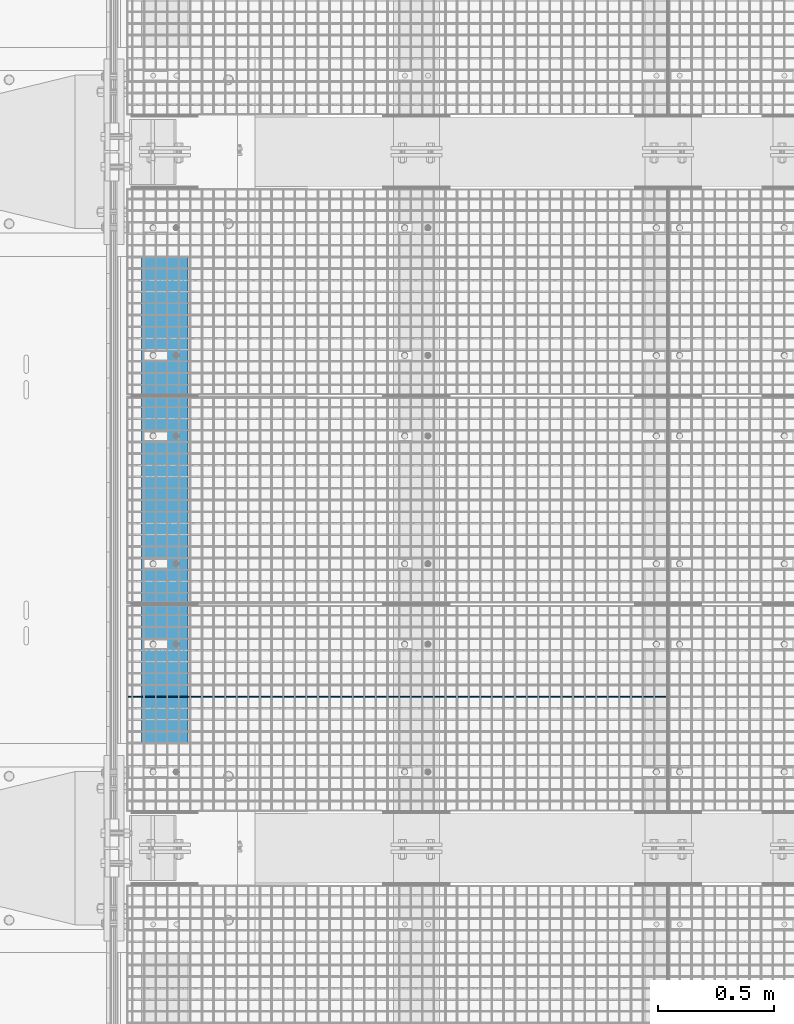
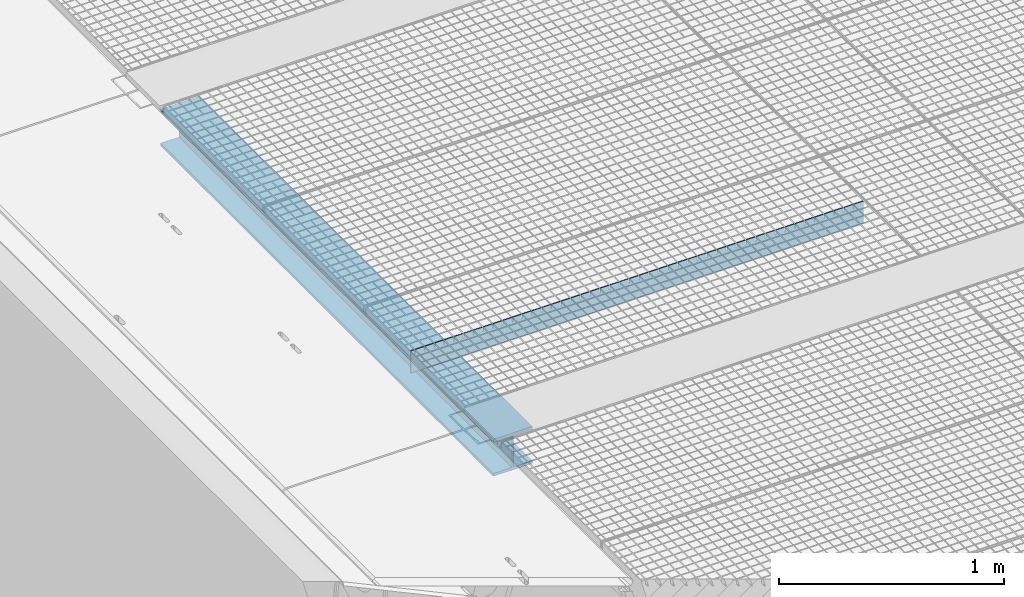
# One storey, part 257 of 1530: 2 beams.
"""IFC2X3 building model written with IfcOpenShell, lengths in millimetres."""

from ifc_helpers import new_model, si_unit, frame, origin_with_axes, place, context, subcontext, project, spatial, faceted_brep, material, type_object, element, save


model = new_model("IFC2X3")

# Units and contexts
model_context = context("Model", 3, precision=1e-05, world=origin_with_axes())
body_context = subcontext(model_context, "Body", "Model", "MODEL_VIEW")
ifc_project = project(units=[si_unit("LENGTHUNIT", "METRE", prefix="MILLI"), si_unit("AREAUNIT", "SQUARE_METRE"), si_unit("VOLUMEUNIT", "CUBIC_METRE"), si_unit("MASSUNIT", "GRAM", prefix="KILO"), si_unit("TIMEUNIT", "SECOND"), si_unit("PLANEANGLEUNIT", "RADIAN"), si_unit("SOLIDANGLEUNIT", "STERADIAN"), si_unit("THERMODYNAMICTEMPERATUREUNIT", "DEGREE_CELSIUS"), si_unit("LUMINOUSINTENSITYUNIT", "LUMEN")], contexts=[model_context])

# Site, building, storey
site_placement = place(None, origin_with_axes())
site = spatial("IfcSite", under=ifc_project, at=site_placement, Name="Brattvåg", CompositionType="ELEMENT")
building_placement = place(site_placement, origin_with_axes())
building = spatial("IfcBuilding", under=site, at=building_placement, Name="Undefined", CompositionType="ELEMENT")
storey_placement = place(building_placement, origin_with_axes())
storey = spatial("IfcBuildingStorey", under=building, at=storey_placement, Name="Undefined", CompositionType="ELEMENT", Elevation=0.0)

# Beams
ifc_material_1 = material(Name="STEEL/S355J2")
beam_type_1 = type_object("IfcBeamType", Name="120*5", PredefinedType="NOTDEFINED")
beam_1_placement = place(storey_placement, frame((2347.01317977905, 3652.99563598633, -59.9998626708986), z_axis=(0.0, 0.0, 1.0), x_axis=(-1.0, 1.99999855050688e-09, 0.0)))
element("IfcBeam", 1, at=beam_1_placement, inside=storey, type_object=beam_type_1, material=ifc_material_1, Name="GRATING", context=body_context, shape_type="Brep", body=[
    faceted_brep([(99.4490367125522, -2.50000000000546, 60.0000722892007), (99.4490367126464, -2.50000000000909, 35.0001373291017), (99.4490367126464, 2.50022888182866, 35.0001373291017), (99.4490367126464, 2.5, 60.0), (104.449036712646, -2.50000000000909, 35.0001373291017), (104.449036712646, 2.50022888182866, 35.0001373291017), (104.449036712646, -2.50000000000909, 60.0001373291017), (104.449036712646, 2.5, 60.0), (54.5084370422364, -2.50000000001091, 60.0001373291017), (54.5084370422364, 2.5, 60.0), (54.5084370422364, 2.49999999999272, 35.0001373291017), (54.5084370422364, -2.50000000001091, 35.0001373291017), (49.5084370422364, 2.49999999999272, 35.0001373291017), (49.5084370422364, -2.50000000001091, 35.0001373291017), (49.5084370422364, -2.5, 60.0), (49.5084370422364, 2.5, 60.0), (0.0, 2.5, 60.0), (0.0, -2.5, 60.0), (0.0, -2.5, -60.0), (0.0, 2.5, -60.0), (2319.99865722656, 2.5, -60.0), (2319.99865722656, -2.5, -60.0), (2319.99865722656, -2.5, 60.0), (2319.99865722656, 2.5, 60.0), (2302.24871932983, 2.5, 60.0), (2302.24871932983, -2.50000000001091, 60.0001373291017), (2302.24871932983, 2.49999999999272, 35.0001373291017), (2302.24871932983, -2.50000000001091, 35.0001373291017), (2297.24871932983, 2.49999999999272, 35.0001373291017), (2297.24871932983, -2.50000000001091, 35.0001373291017), (2297.24871932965, -2.50000000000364, 60.0000461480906), (2297.24871932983, 2.5, 60.0), (2252.29859649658, 2.5, 60.0), (2252.29859649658, -2.50000000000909, 60.0001373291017), (2252.29859649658, 2.50022888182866, 35.0001373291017), (2252.29859649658, -2.50000000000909, 35.0001373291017), (2247.29859649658, 2.50022888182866, 35.0001373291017), (2247.29859649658, -2.50000000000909, 35.0001373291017), (2247.29859649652, -2.50000000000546, 60.0000848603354), (2247.29859649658, 2.5, 60.0), (2202.34847366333, 2.5, 60.0), (2202.34847366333, -2.50000000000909, 60.0001373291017), (2202.34847366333, 2.50022888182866, 35.0001373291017), (2202.34847366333, -2.50000000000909, 35.0001373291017), (2197.34847366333, 2.50022888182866, 35.0001373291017), (2197.34847366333, -2.50000000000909, 35.0001373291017), (2197.34847366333, -2.5, 60.0), (2197.34847366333, 2.5, 60.0), (2152.39882766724, 2.5, 60.0), (2152.39882766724, -2.50000000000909, 60.0001373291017), (2152.39882766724, 2.50022888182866, 35.0001373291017), (2152.39882766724, -2.50000000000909, 35.0001373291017), (2147.39882766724, 2.50022888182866, 35.0001373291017), (2147.39882766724, -2.50000000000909, 35.0001373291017), (2147.39882766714, -2.50000000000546, 60.0000722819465), (2147.39882766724, 2.5, 60.0), (2102.44870483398, 2.5, 60.0), (2102.44870483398, -2.50000000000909, 60.0001373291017), (2102.44870483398, 2.50022888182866, 35.0001373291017), (2102.44870483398, -2.50000000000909, 35.0001373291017), (2097.44870483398, 2.50022888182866, 35.0001373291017), (2097.44870483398, -2.50000000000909, 35.0001373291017), (2097.44870483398, -2.5, 60.0), (2097.44870483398, 2.5, 60.0), (2052.49858200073, 2.5, 60.0), (2052.49858200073, -2.50000000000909, 60.0001373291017), (2052.49858200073, 2.50022888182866, 35.0001373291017), (2052.49858200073, -2.50000000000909, 35.0001373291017), (2047.49858200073, 2.50022888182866, 35.0001373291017), (2047.49858200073, -2.50000000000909, 35.0001373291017), (2047.49858200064, -2.50000000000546, 60.0000722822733), (2047.49858200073, 2.5, 60.0), (2002.54845916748, 2.5, 60.0), (2002.54845916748, -2.50000000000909, 60.0001373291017), (2002.54845916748, 2.50022888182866, 35.0001373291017), (2002.54845916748, -2.50000000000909, 35.0001373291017), (1997.54845916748, 2.50022888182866, 35.0001373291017), (1997.54845916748, -2.50000000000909, 35.0001373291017), (1997.54845916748, -2.5, 60.0), (1997.54845916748, 2.5, 60.0), (1952.59881317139, 2.5, 60.0), (1952.59881317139, -2.50000000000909, 60.0001373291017), (1952.59881317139, 2.50022888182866, 35.0001373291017), (1952.59881317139, -2.50000000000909, 35.0001373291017), (1947.59881317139, 2.50022888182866, 35.0001373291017), (1947.59881317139, -2.50000000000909, 35.0001373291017), (1947.59881317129, -2.50000000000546, 60.0000722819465), (1947.59881317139, 2.5, 60.0), (1902.64869033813, 2.5, 60.0), (1902.64869033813, -2.50000000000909, 60.0001373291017), (1902.64869033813, 2.50022888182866, 35.0001373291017), (1902.64869033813, -2.50000000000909, 35.0001373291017), (1897.64869033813, 2.50022888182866, 35.0001373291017), (1897.64869033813, -2.50000000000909, 35.0001373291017), (1897.64869033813, -2.5, 60.0), (1897.64869033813, 2.5, 60.0), (1852.69856750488, 2.5, 60.0), (1852.69856750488, -2.50000000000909, 60.0001373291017), (1852.69856750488, 2.50022888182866, 35.0001373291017), (1852.69856750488, -2.50000000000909, 35.0001373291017), (1847.69856750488, 2.50022888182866, 35.0001373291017), (1847.69856750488, -2.50000000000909, 35.0001373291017), (1847.69856750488, -2.5, 60.0), (1847.69856750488, 2.5, 60.0), (1802.74892150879, 2.5, 60.0), (1802.74892150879, -2.50000000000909, 60.0001373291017), (1802.74892150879, 2.50022888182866, 35.0001373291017), (1802.74892150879, -2.50000000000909, 35.0001373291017), (1797.74892150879, 2.50022888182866, 35.0001373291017), (1797.74892150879, -2.50000000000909, 35.0001373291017), (1797.74892150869, -2.50000000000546, 60.0000722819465), (1797.74892150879, 2.5, 60.0), (1752.79879867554, 2.5, 60.0), (1752.79879867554, -2.50000000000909, 60.0001373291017), (1752.79879867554, 2.50022888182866, 35.0001373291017), (1752.79879867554, -2.50000000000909, 35.0001373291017), (1747.79879867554, 2.50022888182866, 35.0001373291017), (1747.79879867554, -2.50000000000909, 35.0001373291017), (1747.79879867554, -2.5, 60.0), (1747.79879867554, 2.5, 60.0), (1702.84867584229, 2.5, 60.0), (1702.84867584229, -2.50000000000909, 60.0001373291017), (1702.84867584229, 2.50022888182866, 35.0001373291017), (1702.84867584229, -2.50000000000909, 35.0001373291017), (1697.84867584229, 2.50022888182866, 35.0001373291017), (1697.84867584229, -2.50000000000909, 35.0001373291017), (1697.84867584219, -2.50000000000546, 60.0000722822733), (1697.84867584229, 2.5, 60.0), (1652.89855300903, 2.5, 60.0), (1652.89855300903, -2.50000000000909, 60.0001373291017), (1652.89855300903, 2.50022888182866, 35.0001373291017), (1652.89855300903, -2.50000000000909, 35.0001373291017), (1647.89855300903, 2.50022888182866, 35.0001373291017), (1647.89855300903, -2.50000000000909, 35.0001373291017), (1647.89855300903, -2.5, 60.0), (1647.89855300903, 2.5, 60.0), (1602.94890701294, 2.5, 60.0), (1602.94890701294, -2.50000000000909, 60.0001373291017), (1602.94890701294, 2.50022888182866, 35.0001373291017), (1602.94890701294, -2.50000000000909, 35.0001373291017), (1597.94890701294, 2.50022888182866, 35.0001373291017), (1597.94890701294, -2.50000000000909, 35.0001373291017), (1597.94890701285, -2.50000000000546, 60.0000722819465), (1597.94890701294, 2.5, 60.0), (1552.99878417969, 2.5, 60.0), (1552.99878417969, -2.50000000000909, 60.0001373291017), (1552.99878417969, 2.50022888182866, 35.0001373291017), (1552.99878417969, -2.50000000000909, 35.0001373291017), (1547.99878417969, 2.50022888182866, 35.0001373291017), (1547.99878417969, -2.50000000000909, 35.0001373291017), (1547.99878417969, -2.5, 60.0), (1547.99878417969, 2.5, 60.0), (1503.04866134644, 2.5, 60.0), (1503.04866134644, -2.50000000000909, 60.0001373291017), (1503.04866134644, 2.50022888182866, 35.0001373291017), (1503.04866134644, -2.50000000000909, 35.0001373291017), (1498.04866134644, 2.50022888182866, 35.0001373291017), (1498.04866134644, -2.50000000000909, 35.0001373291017), (1498.04866134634, -2.50000000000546, 60.0000722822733), (1498.04866134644, 2.5, 60.0), (1453.09853851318, 2.5, 60.0), (1453.09853851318, -2.50000000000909, 60.0001373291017), (1453.09853851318, 2.50022888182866, 35.0001373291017), (1453.09853851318, -2.50000000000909, 35.0001373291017), (1448.09853851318, 2.50022888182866, 35.0001373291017), (1448.09853851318, -2.50000000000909, 35.0001373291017), (1448.09853851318, -2.5, 60.0), (1448.09853851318, 2.5, 60.0), (1403.14889251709, 2.5, 60.0), (1403.14889251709, -2.50000000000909, 60.0001373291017), (1403.14889251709, 2.50022888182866, 35.0001373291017), (1403.14889251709, -2.50000000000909, 35.0001373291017), (1398.14889251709, 2.50022888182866, 35.0001373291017), (1398.14889251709, -2.50000000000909, 35.0001373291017), (1398.148892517, -2.50000000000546, 60.0000722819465), (1398.14889251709, 2.5, 60.0), (1353.19876968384, 2.5, 60.0), (1353.19876968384, -2.50000000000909, 60.0001373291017), (1353.19876968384, 2.50022888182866, 35.0001373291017), (1353.19876968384, -2.50000000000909, 35.0001373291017), (1348.19876968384, 2.50022888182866, 35.0001373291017), (1348.19876968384, -2.50000000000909, 35.0001373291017), (1348.19876968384, -2.5, 60.0), (1348.19876968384, 2.5, 60.0), (1303.24864685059, 2.5, 60.0), (1303.24864685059, -2.50000000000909, 60.0001373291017), (1303.24864685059, 2.50022888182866, 35.0001373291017), (1303.24864685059, -2.50000000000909, 35.0001373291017), (1298.24864685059, 2.50022888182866, 35.0001373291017), (1298.24864685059, -2.50000000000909, 35.0001373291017), (1298.24864685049, -2.50000000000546, 60.0000722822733), (1298.24864685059, 2.5, 60.0), (1253.29852401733, 2.5, 60.0), (1253.29852401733, -2.50000000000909, 60.0001373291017), (1253.29852401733, 2.50022888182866, 35.0001373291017), (1253.29852401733, -2.50000000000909, 35.0001373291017), (1248.29852401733, 2.50022888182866, 35.0001373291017), (1248.29852401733, -2.50000000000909, 35.0001373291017), (1248.29852401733, -2.5, 60.0), (1248.29852401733, 2.5, 60.0), (1203.34887802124, 2.5, 60.0), (1203.34887802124, -2.50000000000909, 60.0001373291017), (1203.34887802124, 2.50022888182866, 35.0001373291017), (1203.34887802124, -2.50000000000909, 35.0001373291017), (1198.34887802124, 2.50022888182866, 35.0001373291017), (1198.34887802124, -2.50000000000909, 35.0001373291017), (1198.34887802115, -2.50000000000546, 60.0000722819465), (1198.34887802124, 2.5, 60.0), (1153.39875518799, 2.5, 60.0), (1153.39875518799, -2.50000000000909, 60.0001373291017), (1153.39875518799, 2.50022888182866, 35.0001373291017), (1153.39875518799, -2.50000000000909, 35.0001373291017), (1148.39875518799, 2.50022888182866, 35.0001373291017), (1148.39875518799, -2.50000000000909, 35.0001373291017), (1148.39875518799, -2.5, 60.0), (1148.39875518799, 2.5, 60.0), (1103.44863235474, 2.5, 60.0), (1103.44863235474, -2.50000000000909, 60.0001373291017), (1103.44863235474, 2.50022888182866, 35.0001373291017), (1103.44863235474, -2.50000000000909, 35.0001373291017), (1098.44863235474, 2.50022888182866, 35.0001373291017), (1098.44863235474, -2.50000000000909, 35.0001373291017), (1098.44863235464, -2.50000000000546, 60.0000722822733), (1098.44863235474, 2.5, 60.0), (1053.49850952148, 2.5, 60.0), (1053.49850952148, -2.50000000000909, 60.0001373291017), (1053.49850952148, 2.50022888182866, 35.0001373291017), (1053.49850952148, -2.50000000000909, 35.0001373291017), (1048.49850952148, 2.50022888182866, 35.0001373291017), (1048.49850952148, -2.50000000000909, 35.0001373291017), (1048.49850952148, -2.5, 60.0), (1048.49850952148, 2.5, 60.0), (1003.54886352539, 2.5, 60.0), (1003.54886352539, -2.50000000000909, 60.0001373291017), (1003.54886352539, 2.50022888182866, 35.0001373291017), (1003.54886352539, -2.50000000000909, 35.0001373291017), (998.548863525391, 2.50022888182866, 35.0001373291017), (998.548863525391, -2.50000000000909, 35.0001373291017), (998.548863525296, -2.50000000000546, 60.0000722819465), (998.548863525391, 2.5, 60.0), (953.598740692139, 2.5, 60.0), (953.598740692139, -2.50000000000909, 60.0001373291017), (953.598740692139, 2.50022888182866, 35.0001373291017), (953.598740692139, -2.50000000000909, 35.0001373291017), (948.598740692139, 2.50022888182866, 35.0001373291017), (948.598740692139, -2.50000000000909, 35.0001373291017), (948.598740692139, -2.5, 60.0), (948.598740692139, 2.5, 60.0), (903.648617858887, 2.5, 60.0), (903.648617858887, -2.50000000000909, 60.0001373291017), (903.648617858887, 2.50022888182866, 35.0001373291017), (903.648617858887, -2.50000000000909, 35.0001373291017), (898.648617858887, 2.50022888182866, 35.0001373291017), (898.648617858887, -2.50000000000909, 35.0001373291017), (898.648617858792, -2.50000000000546, 60.0000722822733), (898.648617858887, 2.5, 60.0), (853.698495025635, 2.5, 60.0), (853.698495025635, -2.50000000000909, 60.0001373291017), (853.698495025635, 2.50022888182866, 35.0001373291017), (853.698495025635, -2.50000000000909, 35.0001373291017), (848.698495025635, 2.50022888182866, 35.0001373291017), (848.698495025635, -2.50000000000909, 35.0001373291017), (848.698495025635, -2.5, 60.0), (848.698495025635, 2.5, 60.0), (803.748849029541, 2.5, 60.0), (803.748849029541, -2.50000000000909, 60.0001373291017), (803.748849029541, 2.50022888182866, 35.0001373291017), (803.748849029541, -2.50000000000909, 35.0001373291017), (798.748849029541, 2.50022888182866, 35.0001373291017), (798.748849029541, -2.50000000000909, 35.0001373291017), (798.748849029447, -2.50000000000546, 60.0000722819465), (798.748849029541, 2.5, 60.0), (753.798726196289, 2.5, 60.0), (753.798726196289, -2.50000000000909, 60.0001373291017), (753.798726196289, 2.50022888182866, 35.0001373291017), (753.798726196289, -2.50000000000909, 35.0001373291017), (748.798726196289, 2.50022888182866, 35.0001373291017), (748.798726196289, -2.50000000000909, 35.0001373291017), (748.798726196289, -2.5, 60.0), (748.798726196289, 2.5, 60.0), (703.848603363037, 2.5, 60.0), (703.848603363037, -2.50000000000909, 60.0001373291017), (703.848603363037, 2.50022888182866, 35.0001373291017), (703.848603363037, -2.50000000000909, 35.0001373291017), (698.848603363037, 2.50022888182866, 35.0001373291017), (698.848603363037, -2.50000000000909, 35.0001373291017), (698.848603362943, -2.50000000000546, 60.0000722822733), (698.848603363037, 2.5, 60.0), (653.898480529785, 2.5, 60.0), (653.898480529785, -2.50000000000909, 60.0001373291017), (653.898480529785, 2.50022888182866, 35.0001373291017), (653.898480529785, -2.50000000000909, 35.0001373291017), (648.898480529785, 2.50022888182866, 35.0001373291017), (648.898480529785, -2.50000000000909, 35.0001373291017), (648.898480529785, -2.5, 60.0), (648.898480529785, 2.5, 60.0), (603.948834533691, 2.5, 60.0), (603.948834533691, -2.50000000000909, 60.0001373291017), (603.948834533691, 2.50022888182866, 35.0001373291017), (603.948834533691, -2.50000000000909, 35.0001373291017), (598.948834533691, 2.50022888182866, 35.0001373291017), (598.948834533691, -2.50000000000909, 35.0001373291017), (598.948834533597, -2.50000000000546, 60.0000722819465), (598.948834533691, 2.5, 60.0), (553.998711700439, 2.5, 60.0), (553.998711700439, -2.50000000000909, 60.0001373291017), (553.998711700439, 2.50022888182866, 35.0001373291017), (553.998711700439, -2.50000000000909, 35.0001373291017), (548.998711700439, 2.50022888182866, 35.0001373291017), (548.998711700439, -2.50000000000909, 35.0001373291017), (548.998711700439, -2.5, 60.0), (548.998711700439, 2.5, 60.0), (504.048588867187, 2.5, 60.0), (504.048588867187, -2.50000000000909, 60.0001373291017), (504.048588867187, 2.50022888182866, 35.0001373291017), (504.048588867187, -2.50000000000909, 35.0001373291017), (499.048588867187, 2.50022888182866, 35.0001373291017), (499.048588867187, -2.50000000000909, 35.0001373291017), (499.048588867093, -2.50000000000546, 60.0000722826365), (499.048588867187, 2.5, 60.0), (454.098942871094, 2.5, 60.0), (454.098942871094, -2.50000000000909, 60.0001373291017), (454.098942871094, 2.50022888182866, 35.0001373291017), (454.098942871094, -2.50000000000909, 35.0001373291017), (449.098942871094, 2.50022888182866, 35.0001373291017), (449.098942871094, -2.50000000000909, 35.0001373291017), (449.098942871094, -2.5, 60.0), (449.098942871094, 2.5, 60.0), (404.148820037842, 2.5, 60.0), (404.148820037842, -2.50000000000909, 60.0001373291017), (404.148820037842, 2.50022888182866, 35.0001373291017), (404.148820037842, -2.50000000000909, 35.0001373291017), (399.148820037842, 2.50022888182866, 35.0001373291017), (399.148820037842, -2.50000000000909, 35.0001373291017), (399.148820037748, -2.50000000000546, 60.0000722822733), (399.148820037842, 2.5, 60.0), (354.19869720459, 2.5, 60.0), (354.19869720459, -2.50000000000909, 60.0001373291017), (354.19869720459, 2.50022888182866, 35.0001373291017), (354.19869720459, -2.50000000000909, 35.0001373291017), (349.19869720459, 2.50022888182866, 35.0001373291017), (349.19869720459, -2.50000000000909, 35.0001373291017), (349.19869720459, -2.5, 60.0), (349.19869720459, 2.5, 60.0), (304.248574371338, 2.5, 60.0), (304.248574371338, -2.50000000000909, 60.0001373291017), (304.248574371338, 2.50022888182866, 35.0001373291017), (304.248574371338, -2.50000000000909, 35.0001373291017), (299.248574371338, 2.50022888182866, 35.0001373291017), (299.248574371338, -2.50000000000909, 35.0001373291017), (299.248574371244, -2.50000000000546, 60.0000722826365), (299.248574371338, 2.5, 60.0), (254.298928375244, 2.5, 60.0), (254.298928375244, -2.50000000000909, 60.0001373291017), (254.298928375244, 2.50022888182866, 35.0001373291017), (254.298928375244, -2.50000000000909, 35.0001373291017), (249.298928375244, 2.50022888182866, 35.0001373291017), (249.298928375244, -2.50000000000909, 35.0001373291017), (249.298928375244, -2.5, 60.0), (249.298928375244, 2.5, 60.0), (204.348328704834, 2.5, 60.0), (204.348328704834, -2.50000000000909, 60.0001373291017), (204.348328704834, 2.50022888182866, 35.0001373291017), (204.348328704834, -2.50000000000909, 35.0001373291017), (199.348328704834, 2.50022888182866, 35.0001373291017), (199.348328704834, -2.50000000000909, 35.0001373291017), (199.34832870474, -2.50000000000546, 60.0000722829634), (199.348328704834, 2.5, 60.0), (154.39868270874, 2.5, 60.0), (154.39868270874, -2.50000000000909, 60.0001373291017), (154.39868270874, 2.50022888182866, 35.0001373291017), (154.39868270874, -2.50000000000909, 35.0001373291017), (149.39868270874, 2.50022888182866, 35.0001373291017), (149.39868270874, -2.50000000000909, 35.0001373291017), (149.39868270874, -2.5, 60.0), (149.39868270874, 2.5, 60.0)], [[[0, 1, 2, 3]], [[4, 5, 2, 1]], [[6, 7, 5, 4]], [[8, 9, 10, 11]], [[11, 10, 12, 13]], [[14, 13, 12, 15]], [[16, 17, 14, 15]], [[18, 17, 16, 19]], [[18, 19, 20, 21]], [[22, 21, 20, 23]], [[22, 23, 24, 25]], [[25, 24, 26, 27]], [[27, 26, 28, 29]], [[30, 29, 28, 31]], [[32, 33, 30, 31]], [[33, 32, 34, 35]], [[35, 34, 36, 37]], [[38, 37, 36, 39]], [[40, 41, 38, 39]], [[41, 40, 42, 43]], [[43, 42, 44, 45]], [[46, 45, 44, 47]], [[46, 47, 48, 49]], [[49, 48, 50, 51]], [[51, 50, 52, 53]], [[54, 53, 52, 55]], [[56, 57, 54, 55]], [[57, 56, 58, 59]], [[59, 58, 60, 61]], [[62, 61, 60, 63]], [[62, 63, 64, 65]], [[65, 64, 66, 67]], [[67, 66, 68, 69]], [[70, 69, 68, 71]], [[72, 73, 70, 71]], [[73, 72, 74, 75]], [[75, 74, 76, 77]], [[78, 77, 76, 79]], [[78, 79, 80, 81]], [[81, 80, 82, 83]], [[83, 82, 84, 85]], [[86, 85, 84, 87]], [[88, 89, 86, 87]], [[89, 88, 90, 91]], [[91, 90, 92, 93]], [[94, 93, 92, 95]], [[94, 95, 96, 97]], [[97, 96, 98, 99]], [[99, 98, 100, 101]], [[102, 101, 100, 103]], [[102, 103, 104, 105]], [[105, 104, 106, 107]], [[107, 106, 108, 109]], [[110, 109, 108, 111]], [[112, 113, 110, 111]], [[113, 112, 114, 115]], [[115, 114, 116, 117]], [[118, 117, 116, 119]], [[118, 119, 120, 121]], [[121, 120, 122, 123]], [[123, 122, 124, 125]], [[126, 125, 124, 127]], [[128, 129, 126, 127]], [[129, 128, 130, 131]], [[131, 130, 132, 133]], [[134, 133, 132, 135]], [[134, 135, 136, 137]], [[137, 136, 138, 139]], [[139, 138, 140, 141]], [[142, 141, 140, 143]], [[144, 145, 142, 143]], [[145, 144, 146, 147]], [[147, 146, 148, 149]], [[150, 149, 148, 151]], [[150, 151, 152, 153]], [[153, 152, 154, 155]], [[155, 154, 156, 157]], [[158, 157, 156, 159]], [[160, 161, 158, 159]], [[161, 160, 162, 163]], [[163, 162, 164, 165]], [[166, 165, 164, 167]], [[166, 167, 168, 169]], [[169, 168, 170, 171]], [[171, 170, 172, 173]], [[174, 173, 172, 175]], [[176, 177, 174, 175]], [[177, 176, 178, 179]], [[179, 178, 180, 181]], [[182, 181, 180, 183]], [[182, 183, 184, 185]], [[185, 184, 186, 187]], [[187, 186, 188, 189]], [[190, 189, 188, 191]], [[192, 193, 190, 191]], [[193, 192, 194, 195]], [[195, 194, 196, 197]], [[198, 197, 196, 199]], [[198, 199, 200, 201]], [[201, 200, 202, 203]], [[203, 202, 204, 205]], [[206, 205, 204, 207]], [[208, 209, 206, 207]], [[209, 208, 210, 211]], [[211, 210, 212, 213]], [[214, 213, 212, 215]], [[214, 215, 216, 217]], [[217, 216, 218, 219]], [[219, 218, 220, 221]], [[222, 221, 220, 223]], [[224, 225, 222, 223]], [[225, 224, 226, 227]], [[227, 226, 228, 229]], [[230, 229, 228, 231]], [[230, 231, 232, 233]], [[233, 232, 234, 235]], [[235, 234, 236, 237]], [[238, 237, 236, 239]], [[240, 241, 238, 239]], [[241, 240, 242, 243]], [[243, 242, 244, 245]], [[246, 245, 244, 247]], [[246, 247, 248, 249]], [[249, 248, 250, 251]], [[251, 250, 252, 253]], [[254, 253, 252, 255]], [[256, 257, 254, 255]], [[257, 256, 258, 259]], [[259, 258, 260, 261]], [[262, 261, 260, 263]], [[262, 263, 264, 265]], [[265, 264, 266, 267]], [[267, 266, 268, 269]], [[270, 269, 268, 271]], [[272, 273, 270, 271]], [[273, 272, 274, 275]], [[275, 274, 276, 277]], [[278, 277, 276, 279]], [[278, 279, 280, 281]], [[281, 280, 282, 283]], [[283, 282, 284, 285]], [[286, 285, 284, 287]], [[288, 289, 286, 287]], [[289, 288, 290, 291]], [[291, 290, 292, 293]], [[294, 293, 292, 295]], [[294, 295, 296, 297]], [[297, 296, 298, 299]], [[299, 298, 300, 301]], [[302, 301, 300, 303]], [[304, 305, 302, 303]], [[305, 304, 306, 307]], [[307, 306, 308, 309]], [[310, 309, 308, 311]], [[310, 311, 312, 313]], [[313, 312, 314, 315]], [[315, 314, 316, 317]], [[318, 317, 316, 319]], [[320, 321, 318, 319]], [[321, 320, 322, 323]], [[323, 322, 324, 325]], [[326, 325, 324, 327]], [[326, 327, 328, 329]], [[329, 328, 330, 331]], [[331, 330, 332, 333]], [[334, 333, 332, 335]], [[336, 337, 334, 335]], [[337, 336, 338, 339]], [[339, 338, 340, 341]], [[342, 341, 340, 343]], [[342, 343, 344, 345]], [[345, 344, 346, 347]], [[347, 346, 348, 349]], [[350, 349, 348, 351]], [[352, 353, 350, 351]], [[353, 352, 354, 355]], [[355, 354, 356, 357]], [[358, 357, 356, 359]], [[358, 359, 360, 361]], [[361, 360, 362, 363]], [[363, 362, 364, 365]], [[366, 365, 364, 367]], [[368, 369, 366, 367]], [[369, 368, 370, 371]], [[371, 370, 372, 373]], [[374, 373, 372, 375]], [[1, 0, 8, 11, 13, 14, 17, 18, 21, 22, 25, 27, 29, 30, 33, 35, 37, 38, 41, 43, 45, 46, 49, 51, 53, 54, 57, 59, 61, 62, 65, 67, 69, 70, 73, 75, 77, 78, 81, 83, 85, 86, 89, 91, 93, 94, 97, 99, 101, 102, 105, 107, 109, 110, 113, 115, 117, 118, 121, 123, 125, 126, 129, 131, 133, 134, 137, 139, 141, 142, 145, 147, 149, 150, 153, 155, 157, 158, 161, 163, 165, 166, 169, 171, 173, 174, 177, 179, 181, 182, 185, 187, 189, 190, 193, 195, 197, 198, 201, 203, 205, 206, 209, 211, 213, 214, 217, 219, 221, 222, 225, 227, 229, 230, 233, 235, 237, 238, 241, 243, 245, 246, 249, 251, 253, 254, 257, 259, 261, 262, 265, 267, 269, 270, 273, 275, 277, 278, 281, 283, 285, 286, 289, 291, 293, 294, 297, 299, 301, 302, 305, 307, 309, 310, 313, 315, 317, 318, 321, 323, 325, 326, 329, 331, 333, 334, 337, 339, 341, 342, 345, 347, 349, 350, 353, 355, 357, 358, 361, 363, 365, 366, 369, 371, 373, 374, 6, 4]], [[9, 8, 0, 3]], [[375, 372, 370, 368, 367, 364, 362, 360, 359, 356, 354, 352, 351, 348, 346, 344, 343, 340, 338, 336, 335, 332, 330, 328, 327, 324, 322, 320, 319, 316, 314, 312, 311, 308, 306, 304, 303, 300, 298, 296, 295, 292, 290, 288, 287, 284, 282, 280, 279, 276, 274, 272, 271, 268, 266, 264, 263, 260, 258, 256, 255, 252, 250, 248, 247, 244, 242, 240, 239, 236, 234, 232, 231, 228, 226, 224, 223, 220, 218, 216, 215, 212, 210, 208, 207, 204, 202, 200, 199, 196, 194, 192, 191, 188, 186, 184, 183, 180, 178, 176, 175, 172, 170, 168, 167, 164, 162, 160, 159, 156, 154, 152, 151, 148, 146, 144, 143, 140, 138, 136, 135, 132, 130, 128, 127, 124, 122, 120, 119, 116, 114, 112, 111, 108, 106, 104, 103, 100, 98, 96, 95, 92, 90, 88, 87, 84, 82, 80, 79, 76, 74, 72, 71, 68, 66, 64, 63, 60, 58, 56, 55, 52, 50, 48, 47, 44, 42, 40, 39, 36, 34, 32, 31, 28, 26, 24, 23, 20, 19, 16, 15, 12, 10, 9, 3, 2, 5, 7]], [[374, 375, 7, 6]]]),
])
ifc_material_2 = material(Name="STEEL/S355J2+N")
beam_type_2 = type_object("IfcBeamType", Name="HEB200", PredefinedType="NOTDEFINED")
beam_2_placement = place(storey_placement, frame((187.001129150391, 3023.00155639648, -219.998931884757), z_axis=(0.0, 0.0, 1.0), x_axis=(0.0, 1.0, 0.0)))
element("IfcBeam", 2, at=beam_2_placement, inside=storey, type_object=beam_type_2, material=ifc_material_2, Name="STÅLBJELKE", context=body_context, shape_type="Brep", body=[
    faceted_brep([(0.0, 100.0, -100.0), (0.0, 100.0, -85.0), (2953.99993896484, 100.0, -85.0), (2953.99993896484, 100.0, -100.0), (0.0, 4.5, -85.0), (2953.99993896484, 4.5, -85.0), (0.0, 4.5, 85.0), (2953.99993896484, 4.5, 85.0), (0.0, 100.0, 85.0), (2953.99993896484, 100.0, 85.0), (0.0, 100.0, 100.0), (2953.99993896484, 100.0, 100.0), (0.0, -100.0, 100.0), (2953.99993896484, -100.0, 100.0), (0.0, -100.0, 85.0), (2953.99993896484, -100.0, 85.0), (0.0, -4.5, 85.0), (2953.99993896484, -4.5, 85.0), (0.0, -4.5, -85.0), (2953.99993896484, -4.5, -85.0), (0.0, -100.0, -85.0), (2953.99993896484, -100.0, -85.0), (0.0, -100.0, -100.0), (2953.99993896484, -100.0, -100.0)], [[[0, 1, 2, 3]], [[1, 4, 5, 2]], [[4, 6, 7, 5]], [[6, 8, 9, 7]], [[8, 10, 11, 9]], [[10, 12, 13, 11]], [[12, 14, 15, 13]], [[14, 16, 17, 15]], [[16, 18, 19, 17]], [[18, 20, 21, 19]], [[20, 22, 23, 21]], [[22, 0, 3, 23]], [[5, 7, 9, 11, 13, 15, 17, 19, 21, 23, 3, 2]], [[22, 20, 18, 16, 14, 12, 10, 8, 6, 4, 1, 0]]]),
])

save(model, "model.ifc")
